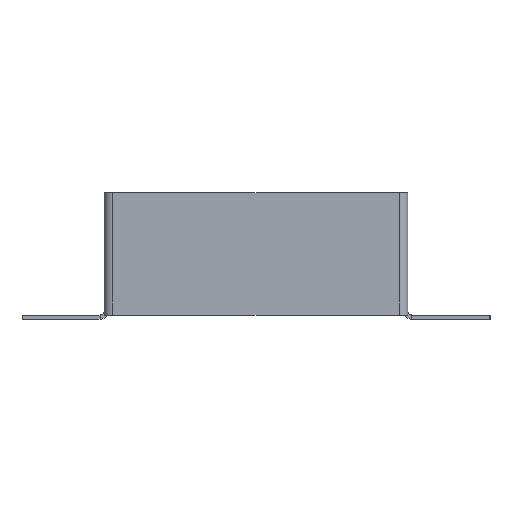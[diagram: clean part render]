
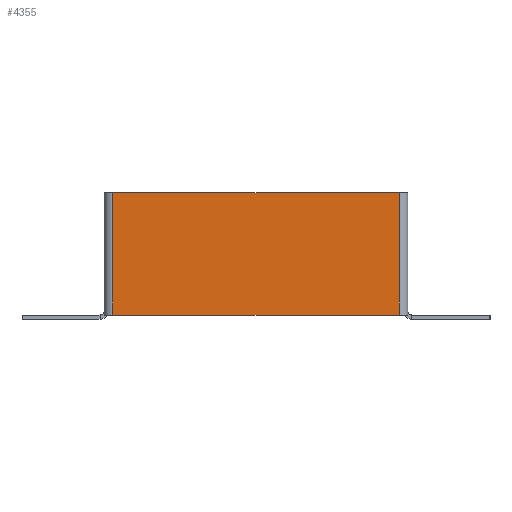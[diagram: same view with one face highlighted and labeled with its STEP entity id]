
A CAD part, front view. The second image highlights one B-rep face of the part: STEP entity #4355.
In plain terms, the highlighted planar face has unit normal (0, -1, 0).
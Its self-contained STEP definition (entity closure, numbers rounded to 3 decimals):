
#339 = VECTOR ( 'NONE', #4411, 1000. ) ;
#513 = CARTESIAN_POINT ( 'NONE',  ( 68., -2., 0. ) ) ;
#552 = DIRECTION ( 'NONE',  ( 0., 0., -1. ) ) ;
#988 = LINE ( 'NONE', #1358, #2061 ) ;
#1051 = VERTEX_POINT ( 'NONE', #513 ) ;
#1353 = CARTESIAN_POINT ( 'NONE',  ( 68., -2., -58. ) ) ;
#1358 = CARTESIAN_POINT ( 'NONE',  ( -70., -2., 0. ) ) ;
#1398 = FACE_OUTER_BOUND ( 'NONE', #6087, .T. ) ;
#1411 = VECTOR ( 'NONE', #552, 1000. ) ;
#1506 = CARTESIAN_POINT ( 'NONE',  ( -68., -2., 0. ) ) ;
#1614 = EDGE_CURVE ( 'NONE', #1832, #1051, #988, .T. ) ;
#1832 = VERTEX_POINT ( 'NONE', #1506 ) ;
#2061 = VECTOR ( 'NONE', #3222, 1000. ) ;
#2495 = CARTESIAN_POINT ( 'NONE',  ( -70., -2., -58. ) ) ;
#2625 = AXIS2_PLACEMENT_3D ( 'NONE', #5864, #7711, #4611 ) ;
#3063 = LINE ( 'NONE', #2495, #339 ) ;
#3222 = DIRECTION ( 'NONE',  ( 1., 0., 0. ) ) ;
#3224 = ORIENTED_EDGE ( 'NONE', *, *, #4814, .F. ) ;
#3498 = CARTESIAN_POINT ( 'NONE',  ( 68., -2., -58. ) ) ;
#3552 = ORIENTED_EDGE ( 'NONE', *, *, #4543, .T. ) ;
#3762 = CARTESIAN_POINT ( 'NONE',  ( -68., -2., 0. ) ) ;
#4238 = LINE ( 'NONE', #3498, #6335 ) ;
#4355 = ADVANCED_FACE ( 'NONE', ( #1398 ), #7084, .F. ) ;
#4411 = DIRECTION ( 'NONE',  ( -1., 0., 0. ) ) ;
#4543 = EDGE_CURVE ( 'NONE', #6617, #1051, #4238, .T. ) ;
#4611 = DIRECTION ( 'NONE',  ( 0., 0., 1. ) ) ;
#4814 = EDGE_CURVE ( 'NONE', #6617, #7789, #3063, .T. ) ;
#5282 = ORIENTED_EDGE ( 'NONE', *, *, #8024, .T. ) ;
#5864 = CARTESIAN_POINT ( 'NONE',  ( 0., -2., 0. ) ) ;
#5928 = CARTESIAN_POINT ( 'NONE',  ( -68., -2., -58. ) ) ;
#6087 = EDGE_LOOP ( 'NONE', ( #5282, #3224, #3552, #7125 ) ) ;
#6335 = VECTOR ( 'NONE', #7251, 1000. ) ;
#6617 = VERTEX_POINT ( 'NONE', #1353 ) ;
#6747 = LINE ( 'NONE', #3762, #1411 ) ;
#7084 = PLANE ( 'NONE',  #2625 ) ;
#7125 = ORIENTED_EDGE ( 'NONE', *, *, #1614, .F. ) ;
#7251 = DIRECTION ( 'NONE',  ( 0., 0., 1. ) ) ;
#7711 = DIRECTION ( 'NONE',  ( 0., 1., 0. ) ) ;
#7789 = VERTEX_POINT ( 'NONE', #5928 ) ;
#8024 = EDGE_CURVE ( 'NONE', #1832, #7789, #6747, .T. ) ;
